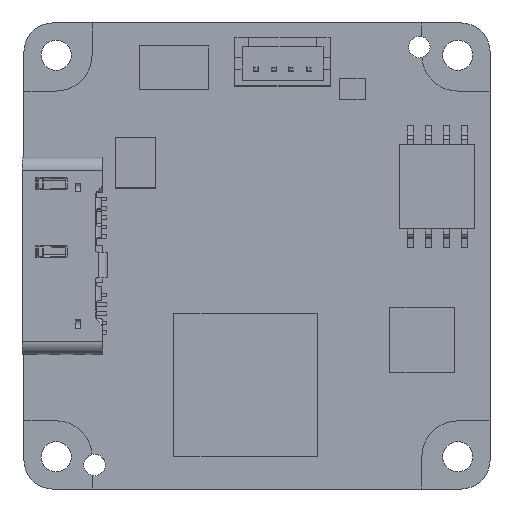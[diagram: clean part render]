
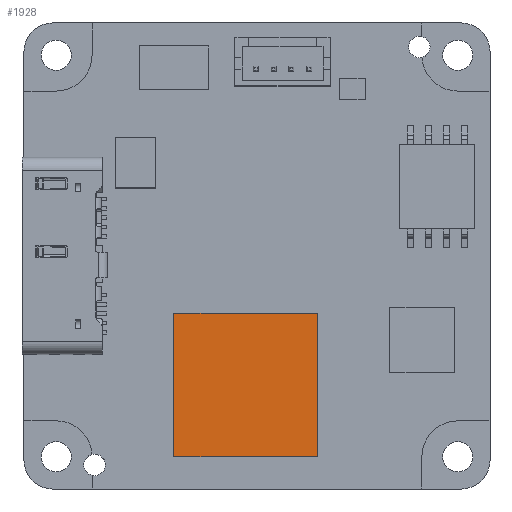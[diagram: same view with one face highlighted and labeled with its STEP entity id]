
A CAD part, top view. The second image highlights one B-rep face of the part: STEP entity #1928.
In plain terms, the highlighted planar face has unit normal (0, 0, 1).
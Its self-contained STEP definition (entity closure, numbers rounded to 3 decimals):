
#404 = ORIENTED_EDGE ( 'NONE', *, *, #1171, .T. ) ;
#906 = EDGE_CURVE ( 'NONE', #10554, #20407, #15709, .T. ) ;
#1171 = EDGE_CURVE ( 'NONE', #20407, #13756, #18767, .T. ) ;
#1275 = EDGE_CURVE ( 'NONE', #13756, #29316, #22926, .T. ) ;
#1402 = EDGE_CURVE ( 'NONE', #29316, #10554, #19128, .T. ) ;
#1928 = ADVANCED_FACE ( 'NONE', ( #7926 ), #21696, .T. ) ;
#3633 = DIRECTION ( 'NONE',  ( 0., 1., 0. ) ) ;
#3671 = CARTESIAN_POINT ( 'NONE',  ( -4.744, -7.305, 33.599 ) ) ;
#5085 = CARTESIAN_POINT ( 'NONE',  ( -4.744, -7.305, 33.599 ) ) ;
#5664 = VECTOR ( 'NONE', #31546, 1000. ) ;
#6069 = VECTOR ( 'NONE', #28552, 1000. ) ;
#7506 = CARTESIAN_POINT ( 'NONE',  ( -4.744, 2.695, 33.599 ) ) ;
#7926 = FACE_OUTER_BOUND ( 'NONE', #26768, .T. ) ;
#8407 = CARTESIAN_POINT ( 'NONE',  ( -14.744, 2.695, 33.599 ) ) ;
#9175 = VECTOR ( 'NONE', #30141, 1000. ) ;
#9402 = CARTESIAN_POINT ( 'NONE',  ( -14.744, -7.305, 33.599 ) ) ;
#10554 = VERTEX_POINT ( 'NONE', #5085 ) ;
#13756 = VERTEX_POINT ( 'NONE', #8407 ) ;
#15709 = LINE ( 'NONE', #3671, #27933 ) ;
#18767 = LINE ( 'NONE', #31851, #5664 ) ;
#18985 = ORIENTED_EDGE ( 'NONE', *, *, #1275, .T. ) ;
#19128 = LINE ( 'NONE', #28506, #6069 ) ;
#20407 = VERTEX_POINT ( 'NONE', #7506 ) ;
#21549 = DIRECTION ( 'NONE',  ( 1., 0., 0. ) ) ;
#21588 = DIRECTION ( 'NONE',  ( 0., 0., 1. ) ) ;
#21594 = CARTESIAN_POINT ( 'NONE',  ( 297.478, 35.034, 33.599 ) ) ;
#21696 = PLANE ( 'NONE',  #29060 ) ;
#22926 = LINE ( 'NONE', #30216, #9175 ) ;
#24150 = ORIENTED_EDGE ( 'NONE', *, *, #1402, .T. ) ;
#26768 = EDGE_LOOP ( 'NONE', ( #28152, #404, #18985, #24150 ) ) ;
#27933 = VECTOR ( 'NONE', #3633, 1000. ) ;
#28152 = ORIENTED_EDGE ( 'NONE', *, *, #906, .T. ) ;
#28506 = CARTESIAN_POINT ( 'NONE',  ( -4.744, -7.305, 33.599 ) ) ;
#28552 = DIRECTION ( 'NONE',  ( 1., 0., 0. ) ) ;
#29060 = AXIS2_PLACEMENT_3D ( 'NONE', #21594, #21588, #21549 ) ;
#29316 = VERTEX_POINT ( 'NONE', #9402 ) ;
#30141 = DIRECTION ( 'NONE',  ( 0., -1., 0. ) ) ;
#30216 = CARTESIAN_POINT ( 'NONE',  ( -14.744, -7.305, 33.599 ) ) ;
#31546 = DIRECTION ( 'NONE',  ( -1., 0., 0. ) ) ;
#31851 = CARTESIAN_POINT ( 'NONE',  ( -4.744, 2.695, 33.599 ) ) ;
